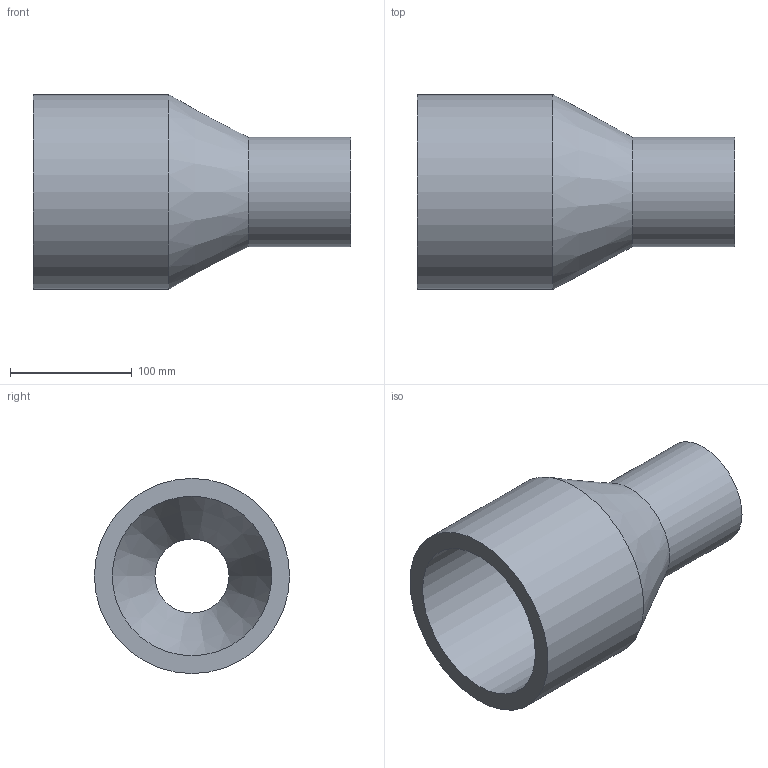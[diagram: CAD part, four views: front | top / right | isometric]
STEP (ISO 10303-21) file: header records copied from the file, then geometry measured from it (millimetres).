
FILE_DESCRIPTION(('Beschreibung'),'1');
FILE_NAME('V:/Ziel/25.91.03.103_SDR_11_PE100_160_090.STP', '2014-09-15T06:33:25',('Author'), ('Organization'), 'KCM Version 1.1.794.0', 'Kubotek KeyCreator', 'Authorization');
FILE_SCHEMA(('CONFIG_CONTROL_DESIGN'));
Length unit declared in the file: millimetre
Bounding box: 260 x 160 x 160 mm (x, y, z)
Volume: 1398692.1 mm3; surface area: 201729.1 mm2
Topology: 1 solids, 1 shells, 8 faces, 22 edges, 24 vertices
Faces by surface type: cylinder 4, cone 2, plane 2
Full cylindrical faces by diameter (mm): 60.8 x1, 90 x1, 130.8 x1, 160 x1
Entity records: 321 total; most frequent: DIRECTION 48, CARTESIAN_POINT 39, ORIENTED_EDGE 28, AXIS2_PLACEMENT_3D 17, EDGE_CURVE 14, VECTOR 14, LINE 14, EDGE_LOOP 10
